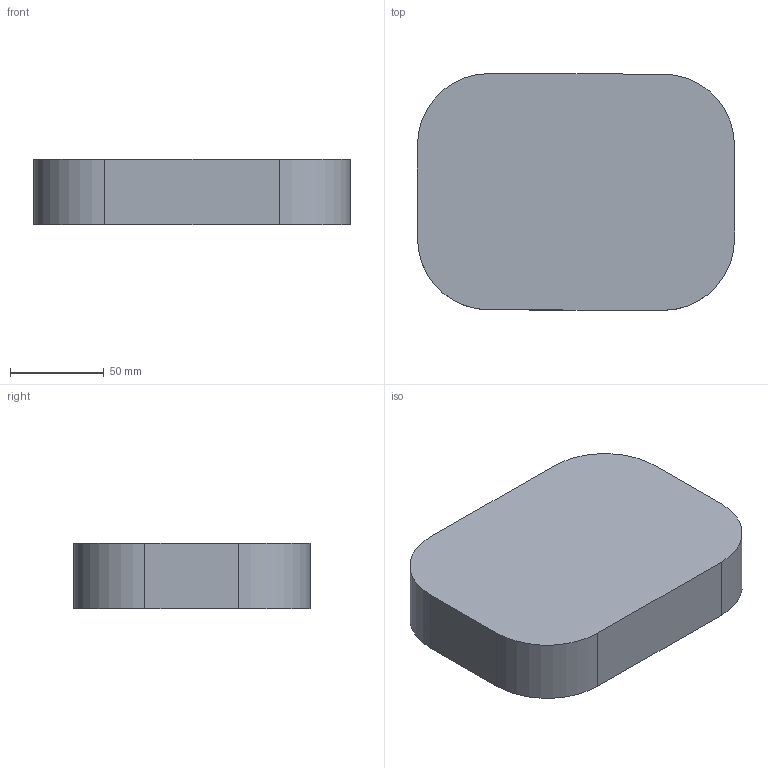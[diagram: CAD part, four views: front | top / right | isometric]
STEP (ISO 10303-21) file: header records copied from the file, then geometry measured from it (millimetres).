
FILE_DESCRIPTION(/* description */ ('VariCAD 2010-2.03 AP-203'),/* implementation_level */ '2;1');
FILE_NAME(/* name */ '0353-62-04',/* time_stamp */ '2010-04-30T12:15:58-06:00',/* author */ (''),/* organization */ (''),/* preprocessor_version */ 'ST-DEVELOPER v12',/* originating_system */ 'VariCAD 2010-2.03; kernel version (20100102)',/* authorisation */ '');
FILE_SCHEMA (('CONFIG_CONTROL_DESIGN'));
Length unit declared in the file: millimetre
Products named in the file (1): Part
Bounding box: 169.47 x 126.56 x 34.8 mm (x, y, z)
Volume: 701263 mm3; surface area: 58609 mm2
Topology: 1 solids, 1 shells, 10 faces, 24 edges, 16 vertices
Faces by surface type: plane 6, cylinder 4
Entity records: 342 total; most frequent: DIRECTION 56, CARTESIAN_POINT 52, ORIENTED_EDGE 48, EDGE_CURVE 24, AXIS2_PLACEMENT_3D 20, LINE 16, VECTOR 16, VERTEX_POINT 16
